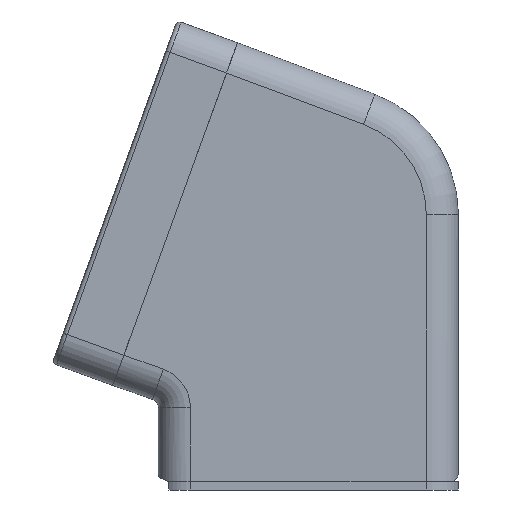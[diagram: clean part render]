
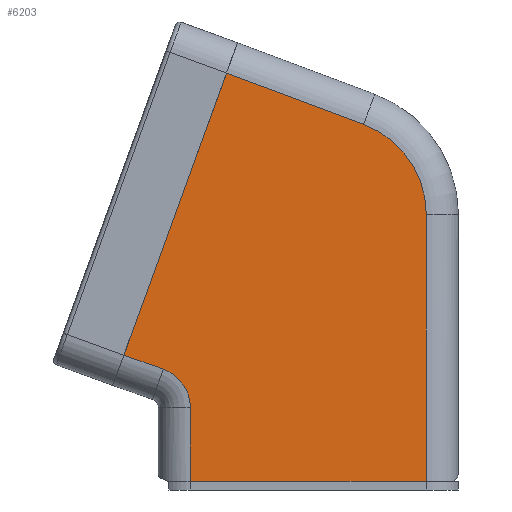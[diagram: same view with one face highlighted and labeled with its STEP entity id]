
A CAD part, left-side view. The second image highlights one B-rep face of the part: STEP entity #6203.
In plain terms, the highlighted planar face has unit normal (-1, 0, 0).
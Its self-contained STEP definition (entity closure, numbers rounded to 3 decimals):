
#98 = DIRECTION ( 'NONE',  ( 0., 0., 1. ) ) ;
#295 = DIRECTION ( 'NONE',  ( 0., 0., 1. ) ) ;
#380 = DIRECTION ( 'NONE',  ( 0., 0., 1. ) ) ;
#557 = ORIENTED_EDGE ( 'NONE', *, *, #12036, .T. ) ;
#624 = LINE ( 'NONE', #2735, #10677 ) ;
#1777 = CARTESIAN_POINT ( 'NONE',  ( -70., 27.5, 17.224 ) ) ;
#2071 = EDGE_CURVE ( 'NONE', #25216, #19260, #9514, .T. ) ;
#2267 = LINE ( 'NONE', #24280, #22231 ) ;
#2735 = CARTESIAN_POINT ( 'NONE',  ( -70., 19.146, 95.237 ) ) ;
#2875 = CARTESIAN_POINT ( 'NONE',  ( -70., -12.88, 83.263 ) ) ;
#5816 = AXIS2_PLACEMENT_3D ( 'NONE', #24378, #12394, #380 ) ;
#6203 = ADVANCED_FACE ( 'NONE', ( #22653 ), #21958, .T. ) ;
#6248 = VERTEX_POINT ( 'NONE', #8408 ) ;
#6318 = CARTESIAN_POINT ( 'NONE',  ( -70., 27.5, 1.61 ) ) ;
#8408 = CARTESIAN_POINT ( 'NONE',  ( -70., 19.085, 95.214 ) ) ;
#8948 = CARTESIAN_POINT ( 'NONE',  ( -70., 33.829, 26.179 ) ) ;
#9069 = EDGE_CURVE ( 'NONE', #21499, #6248, #21788, .T. ) ;
#9514 = LINE ( 'NONE', #9624, #14775 ) ;
#9624 = CARTESIAN_POINT ( 'NONE',  ( -70., 15.5, 0. ) ) ;
#10132 = DIRECTION ( 'NONE',  ( -1., 0., 0. ) ) ;
#10296 = AXIS2_PLACEMENT_3D ( 'NONE', #24109, #12138, #98 ) ;
#10452 = ORIENTED_EDGE ( 'NONE', *, *, #12201, .T. ) ;
#10677 = VECTOR ( 'NONE', #14670, 1000. ) ;
#10922 = DIRECTION ( 'NONE',  ( 0., -0.943, -0.334 ) ) ;
#11038 = DIRECTION ( 'NONE',  ( 0., 1., 0. ) ) ;
#11965 = EDGE_CURVE ( 'NONE', #18418, #24408, #19999, .T. ) ;
#12035 = EDGE_CURVE ( 'NONE', #24408, #19260, #12245, .T. ) ;
#12036 = EDGE_CURVE ( 'NONE', #25216, #16546, #2267, .T. ) ;
#12068 = EDGE_CURVE ( 'NONE', #16546, #21543, #17524, .T. ) ;
#12113 = EDGE_CURVE ( 'NONE', #21543, #6248, #624, .T. ) ;
#12138 = DIRECTION ( 'NONE',  ( 1., 0., 0. ) ) ;
#12201 = EDGE_CURVE ( 'NONE', #21499, #18418, #13476, .T. ) ;
#12245 = LINE ( 'NONE', #6318, #22855 ) ;
#12394 = DIRECTION ( 'NONE',  ( -1., 0., 0. ) ) ;
#12406 = ORIENTED_EDGE ( 'NONE', *, *, #12068, .T. ) ;
#13390 = ORIENTED_EDGE ( 'NONE', *, *, #2071, .F. ) ;
#13476 = LINE ( 'NONE', #8948, #18732 ) ;
#14628 = CARTESIAN_POINT ( 'NONE',  ( -70., 43.026, 29.436 ) ) ;
#14670 = DIRECTION ( 'NONE',  ( 0., 0.937, 0.35 ) ) ;
#14775 = VECTOR ( 'NONE', #11038, 1000. ) ;
#14925 = ORIENTED_EDGE ( 'NONE', *, *, #12113, .T. ) ;
#15420 = ORIENTED_EDGE ( 'NONE', *, *, #11965, .T. ) ;
#16435 = DIRECTION ( 'NONE',  ( 0., -0.342, 0.94 ) ) ;
#16465 = VECTOR ( 'NONE', #16435, 1000. ) ;
#16546 = VERTEX_POINT ( 'NONE', #19923 ) ;
#17524 = CIRCLE ( 'NONE', #5816, 22.5 ) ;
#18418 = VERTEX_POINT ( 'NONE', #25824 ) ;
#18732 = VECTOR ( 'NONE', #10922, 1000. ) ;
#19136 = ORIENTED_EDGE ( 'NONE', *, *, #9069, .F. ) ;
#19260 = VERTEX_POINT ( 'NONE', #21049 ) ;
#19433 = AXIS2_PLACEMENT_3D ( 'NONE', #22045, #10132, #24080 ) ;
#19853 = ORIENTED_EDGE ( 'NONE', *, *, #12035, .T. ) ;
#19923 = CARTESIAN_POINT ( 'NONE',  ( -70., -27.5, 62.188 ) ) ;
#19999 = CIRCLE ( 'NONE', #10296, 9.5 ) ;
#21049 = CARTESIAN_POINT ( 'NONE',  ( -70., 27.5, 0. ) ) ;
#21499 = VERTEX_POINT ( 'NONE', #14628 ) ;
#21543 = VERTEX_POINT ( 'NONE', #2875 ) ;
#21788 = LINE ( 'NONE', #24431, #16465 ) ;
#21958 = PLANE ( 'NONE',  #19433 ) ;
#22045 = CARTESIAN_POINT ( 'NONE',  ( -70., 34., 1.61 ) ) ;
#22181 = DIRECTION ( 'NONE',  ( 0., 0., -1. ) ) ;
#22231 = VECTOR ( 'NONE', #295, 1000. ) ;
#22653 = FACE_OUTER_BOUND ( 'NONE', #23353, .T. ) ;
#22855 = VECTOR ( 'NONE', #22181, 1000. ) ;
#23353 = EDGE_LOOP ( 'NONE', ( #15420, #19853, #13390, #557, #12406, #14925, #19136, #10452 ) ) ;
#24021 = CARTESIAN_POINT ( 'NONE',  ( -70., -27.5, 0. ) ) ;
#24080 = DIRECTION ( 'NONE',  ( 0., 0., 1. ) ) ;
#24109 = CARTESIAN_POINT ( 'NONE',  ( -70., 37., 17.224 ) ) ;
#24280 = CARTESIAN_POINT ( 'NONE',  ( -70., -27.5, 62.188 ) ) ;
#24378 = CARTESIAN_POINT ( 'NONE',  ( -70., -5., 62.188 ) ) ;
#24408 = VERTEX_POINT ( 'NONE', #1777 ) ;
#24431 = CARTESIAN_POINT ( 'NONE',  ( -70., 17.546, 99.443 ) ) ;
#25216 = VERTEX_POINT ( 'NONE', #24021 ) ;
#25824 = CARTESIAN_POINT ( 'NONE',  ( -70., 33.829, 26.179 ) ) ;
